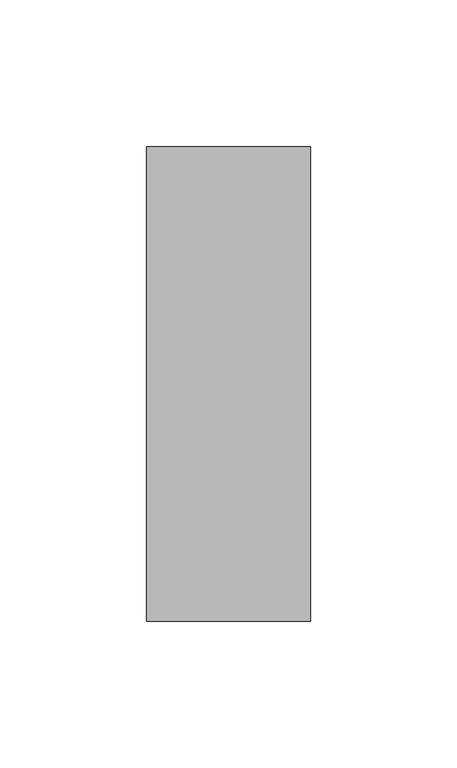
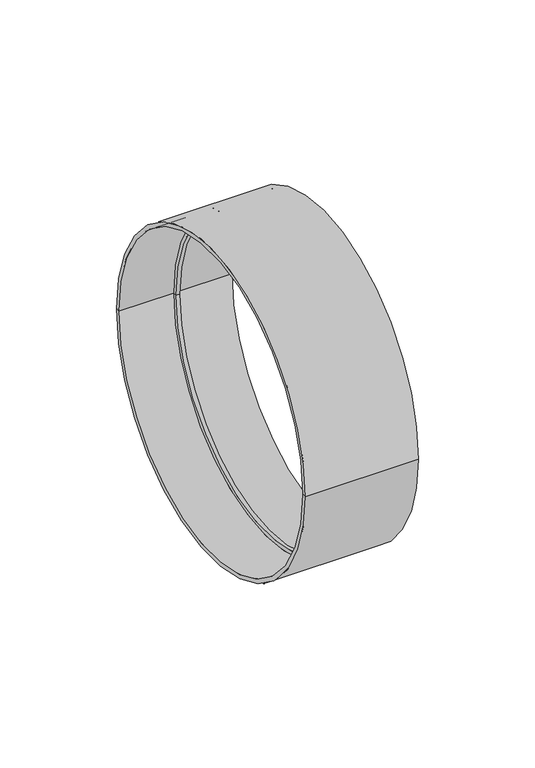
"""IFC4 building model written with IfcOpenShell, lengths in millimetres: duct fitting geometry, NLRS_57_DUF_UN_sleeve joint EPS-SH_M&G : ø125 ø160 (nested)."""

from ifc_helpers import new_model, si_unit, frame, origin, place, context, project, spatial, polyline, circle_curve, source, transform, mapped, element, save
from ifc_brep_helpers import plane_surface, cylinder_surface, revolved_surface, advanced_brep


def duct_fitting_64a3c626(model_context):
    return source(origin(), model_context, "Body", "AdvancedBrep", [
        advanced_brep(
        [(-28.0, -81.0, 0.0), (-28.0, 81.0, 0.0), (28.0, 81.0, 0.0), (28.0, -81.0, 0.0), (-28.0, -79.0, 0.0), (-28.0, 79.0, 0.0), (-1.0, -79.0, 0.0), (-1.0, 79.0, 0.0), (-1.0, -77.0, 0.0), (-1.0, 77.0, 0.0), (1.0, -79.0, 0.0), (1.0, 79.0, 0.0), (1.0, 77.0, 0.0), (1.0, -77.0, 0.0), (28.0, -79.0, 0.0), (28.0, 79.0, 0.0)],
        [
            (0, 1, circle_curve(frame((-28.0, 0.0, 0.0), z_axis=(1.0, 0.0, 0.0), x_axis=(0.0, 1.0, 0.0)), 81.0)),
            (1, 2),
            (2, 3, circle_curve(frame((28.0, 0.0, 0.0), z_axis=(-1.0, 0.0, 0.0), x_axis=(0.0, 1.0, 0.0)), 81.0)),
            (3, 0),
            (1, 0, circle_curve(frame((-28.0, 0.0, 0.0), z_axis=(1.0, 0.0, 0.0), x_axis=(0.0, 1.0, 0.0)), 81.0)),
            (3, 2, circle_curve(frame((28.0, 0.0, 0.0), z_axis=(-1.0, 0.0, 0.0), x_axis=(0.0, 1.0, 0.0)), 81.0)),
            (4, 5, circle_curve(frame((-28.0, 0.0, 0.0), z_axis=(1.0, 0.0, 0.0), x_axis=(0.0, 1.0, 0.0)), 79.0)),
            (5, 1),
            (0, 4),
            (5, 4, circle_curve(frame((-28.0, 0.0, 0.0), z_axis=(1.0, 0.0, 0.0), x_axis=(0.0, 1.0, 0.0)), 79.0)),
            (6, 7, circle_curve(frame((-1.0, 0.0, 0.0), z_axis=(1.0, 0.0, 0.0), x_axis=(0.0, 1.0, 0.0)), 79.0)),
            (7, 5),
            (4, 6),
            (7, 6, circle_curve(frame((-1.0, 0.0, 0.0), z_axis=(1.0, 0.0, 0.0), x_axis=(0.0, 1.0, 0.0)), 79.0)),
            (8, 9, circle_curve(frame((-1.0, 0.0, 0.0), z_axis=(1.0, 0.0, 0.0), x_axis=(0.0, 1.0, 0.0)), 77.0)),
            (9, 7),
            (6, 8),
            (9, 8, circle_curve(frame((-1.0, 0.0, 0.0), z_axis=(1.0, 0.0, 0.0), x_axis=(0.0, 1.0, 0.0)), 77.0)),
            (10, 11, circle_curve(frame((1.0, 0.0, 0.0), z_axis=(1.0, 0.0, 0.0), x_axis=(0.0, 1.0, 0.0)), 79.0)),
            (11, 12),
            (12, 13, circle_curve(frame((1.0, 0.0, 0.0), z_axis=(-1.0, 0.0, 0.0), x_axis=(0.0, 1.0, 0.0)), 77.0)),
            (13, 10),
            (11, 10, circle_curve(frame((1.0, 0.0, 0.0), z_axis=(1.0, 0.0, 0.0), x_axis=(0.0, 1.0, 0.0)), 79.0)),
            (13, 12, circle_curve(frame((1.0, 0.0, 0.0), z_axis=(-1.0, 0.0, 0.0), x_axis=(0.0, 1.0, 0.0)), 77.0)),
            (14, 15, circle_curve(frame((28.0, 0.0, 0.0), z_axis=(1.0, 0.0, 0.0), x_axis=(0.0, 1.0, 0.0)), 79.0)),
            (15, 11),
            (10, 14),
            (15, 14, circle_curve(frame((28.0, 0.0, 0.0), z_axis=(1.0, 0.0, 0.0), x_axis=(0.0, 1.0, 0.0)), 79.0)),
            (2, 15),
            (14, 3),
            (12, 9),
            (8, 13),
        ],
        [
            cylinder_surface(frame((1975.5, 0.0, 0.0), z_axis=(-1.0, 0.0, 0.0), x_axis=(0.0, 1.0, 0.0)), 81.0),
            plane_surface(frame((-28.0, 0.0, 0.0), z_axis=(-1.0, 0.0, 0.0), x_axis=(0.0, 1.0, 0.0))),
            revolved_surface(polyline([(-28.0, 79.0, 0.0), (-1.0, 79.0, 0.0)]), (1975.5, 0.0, 0.0), (-1.0, 0.0, 0.0)),
            plane_surface(frame((-1.0, 0.0, 0.0), z_axis=(-1.0, 0.0, 0.0), x_axis=(0.0, 1.0, 0.0))),
            plane_surface(frame((1.0, 0.0, 0.0), z_axis=(1.0, 0.0, 0.0), x_axis=(0.0, 1.0, 0.0))),
            revolved_surface(polyline([(1.0, 79.0, 0.0), (28.0, 79.0, 0.0)]), (1975.5, 0.0, 0.0), (-1.0, 0.0, 0.0)),
            plane_surface(frame((28.0, 0.0, 0.0), z_axis=(1.0, 0.0, 0.0), x_axis=(0.0, 1.0, 0.0))),
            revolved_surface(polyline([(-1.0, 77.0, 0.0), (1.0, 77.0, 0.0)]), (1975.5, 0.0, 0.0), (-1.0, 0.0, 0.0)),
        ],
        [
            (0, [[1, 2, 3, 4]]),
            (0, [[5, -4, 6, -2]]),
            (1, [[7, 8, -1, 9]]),
            (1, [[10, -9, -5, -8]]),
            (2, [[11, 12, -7, 13]]),
            (2, [[14, -13, -10, -12]]),
            (3, [[15, 16, -11, 17]]),
            (3, [[18, -17, -14, -16]]),
            (4, [[19, 20, 21, 22]]),
            (4, [[23, -22, 24, -20]]),
            (5, [[25, 26, -19, 27]]),
            (5, [[28, -27, -23, -26]]),
            (6, [[-3, 29, -25, 30]]),
            (6, [[-6, -30, -28, -29]]),
            (7, [[-21, 31, -15, 32]]),
            (7, [[-24, -32, -18, -31]]),
        ],
    ),
    ])


if __name__ == "__main__":
    model = new_model("IFC4")
    model_context = context("Model", 3, world=origin())
    ifc_project = project(units=[si_unit("LENGTHUNIT", "METRE", prefix="MILLI")], contexts=[model_context])
    site = spatial("IfcSite", under=ifc_project)
    building = spatial("IfcBuilding", under=site)
    placement = place(None, origin())
    duct_fitting_shape = duct_fitting_64a3c626(model_context)
    element("IfcDuctFitting", 1, ObjectType="NLRS_57_DUF_UN_sleeve joint EPS-SH_M&G : ø125 ø160 (nested)", at=placement, inside=building, context=model_context, shape_type="MappedRepresentation", body=[
        mapped(duct_fitting_shape, transform((0.0, 0.0, 0.0), x_axis=(1.0, 0.0, 0.0), y_axis=(0.0, 1.0, 0.0), z_axis=(0.0, 0.0, 1.0))),
    ])
    save(model, "model.ifc")
